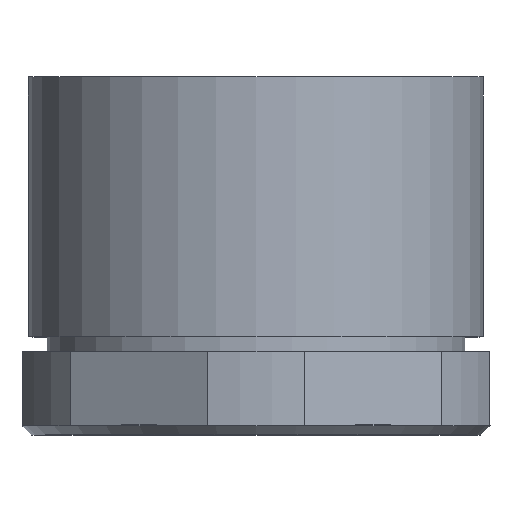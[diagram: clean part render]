
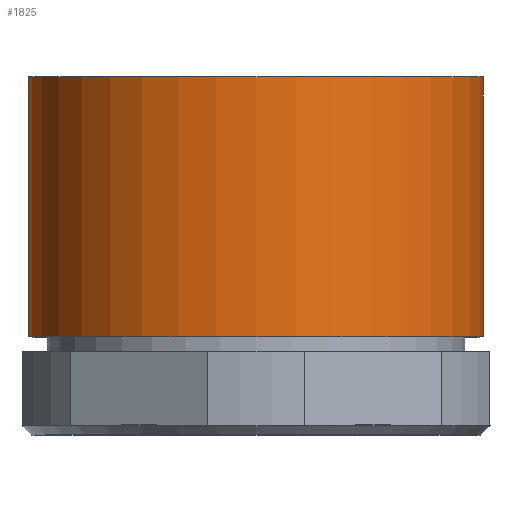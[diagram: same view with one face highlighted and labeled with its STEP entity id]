
A CAD part, top view. The second image highlights one B-rep face of the part: STEP entity #1825.
In plain terms, the highlighted cylindrical face has radius 17.5 mm (diameter 35 mm), a full revolution.
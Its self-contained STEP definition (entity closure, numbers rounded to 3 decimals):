
#149=CYLINDRICAL_SURFACE('',#1941,17.5);
#253=FACE_BOUND('',#451,.T.);
#338=FACE_OUTER_BOUND('',#450,.T.);
#450=EDGE_LOOP('',(#1288));
#451=EDGE_LOOP('',(#1289));
#628=CIRCLE('',#1942,17.5);
#629=CIRCLE('',#1943,17.5);
#829=VERTEX_POINT('',#2962);
#830=VERTEX_POINT('',#2964);
#1014=EDGE_CURVE('',#829,#829,#628,.T.);
#1015=EDGE_CURVE('',#830,#830,#629,.T.);
#1288=ORIENTED_EDGE('',*,*,#1014,.F.);
#1289=ORIENTED_EDGE('',*,*,#1015,.T.);
#1825=ADVANCED_FACE('',(#338,#253),#149,.T.);
#1941=AXIS2_PLACEMENT_3D('',#2961,#2265,#2266);
#1942=AXIS2_PLACEMENT_3D('',#2963,#2267,#2268);
#1943=AXIS2_PLACEMENT_3D('',#2965,#2269,#2270);
#2265=DIRECTION('center_axis',(0.,1.,0.));
#2266=DIRECTION('ref_axis',(-1.,0.,0.));
#2267=DIRECTION('center_axis',(0.,1.,0.));
#2268=DIRECTION('ref_axis',(-1.,0.,0.));
#2269=DIRECTION('center_axis',(0.,1.,0.));
#2270=DIRECTION('ref_axis',(-1.,0.,0.));
#2961=CARTESIAN_POINT('Origin',(0.,13.592,0.));
#2962=CARTESIAN_POINT('',(-17.5,23.592,0.));
#2963=CARTESIAN_POINT('Origin',(0.,23.592,0.));
#2964=CARTESIAN_POINT('',(-17.5,3.592,0.));
#2965=CARTESIAN_POINT('Origin',(0.,3.592,0.));
